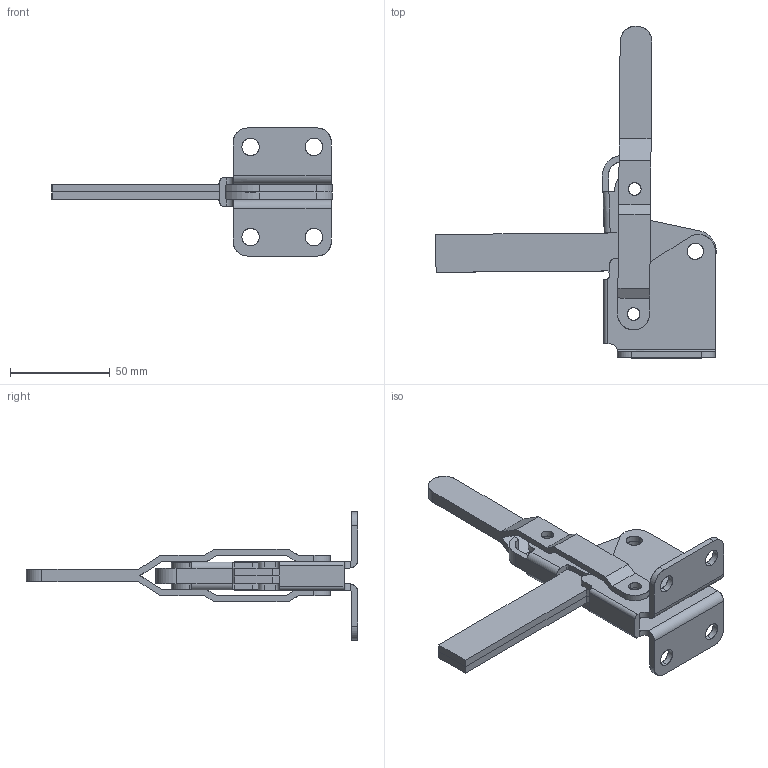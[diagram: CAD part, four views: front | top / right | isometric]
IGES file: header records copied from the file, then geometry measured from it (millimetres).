
Start section: SolidWorks IGES file using analytic representation for surfaces
Global section: file name: D:\GH Files\GH-SW-FILES\GH1\GH-12270\12275\GH-12275.IGS; native system: SolidWorks 2006 by SolidWorks Corporation; preprocessor: SolidWorks 2006 by SolidWorks Corporation; author: Administrator; date: 060825.131359; units: millimetre
Bounding box: 140.87 x 166.68 x 64.3 mm (x, y, z)
Surface area: 47608.4 mm2 (no closed solid volume)
Topology: 0 solids, 0 shells, 172 faces, 3012 edges, 3012 vertices
Faces by surface type: revolution 90, bspline 82
